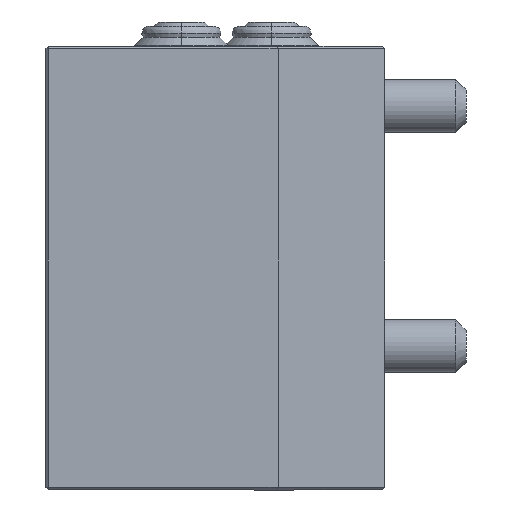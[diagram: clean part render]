
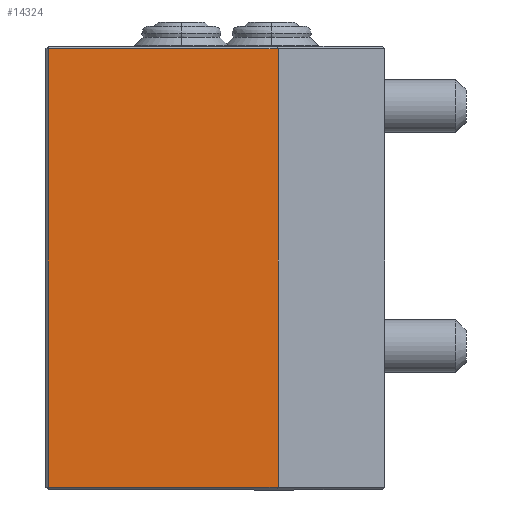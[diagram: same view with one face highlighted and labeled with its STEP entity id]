
A CAD part, left-side view. The second image highlights one B-rep face of the part: STEP entity #14324.
In plain terms, the highlighted planar face has unit normal (-1, 0, 0).
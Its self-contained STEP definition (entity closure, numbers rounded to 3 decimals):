
#331 = AXIS2_PLACEMENT_3D ( 'NONE', #9871, #9806, #9775 ) ;
#340 = DIRECTION ( 'NONE',  ( 0., 0., -1. ) ) ;
#414 = CARTESIAN_POINT ( 'NONE',  ( -51.915, -51.108, 16.635 ) ) ;
#461 = EDGE_CURVE ( 'NONE', #12546, #12591, #9087, .T. ) ;
#1941 = LINE ( 'NONE', #414, #1966 ) ;
#1966 = VECTOR ( 'NONE', #340, 1000. ) ;
#2336 = EDGE_CURVE ( 'NONE', #12412, #12591, #4710, .T. ) ;
#3225 = EDGE_CURVE ( 'NONE', #14670, #12412, #1941, .T. ) ;
#3748 = ORIENTED_EDGE ( 'NONE', *, *, #11827, .F. ) ;
#4710 = LINE ( 'NONE', #6121, #4810 ) ;
#4810 = VECTOR ( 'NONE', #6169, 1000. ) ;
#5515 = CARTESIAN_POINT ( 'NONE',  ( -51.915, -33.908, -16.435 ) ) ;
#5748 = CARTESIAN_POINT ( 'NONE',  ( -51.915, -33.908, 16.435 ) ) ;
#6121 = CARTESIAN_POINT ( 'NONE',  ( -51.915, -59.108, -16.435 ) ) ;
#6169 = DIRECTION ( 'NONE',  ( 0., 1., 0. ) ) ;
#6519 = CARTESIAN_POINT ( 'NONE',  ( -51.915, -51.108, -16.435 ) ) ;
#6562 = FACE_OUTER_BOUND ( 'NONE', #14475, .T. ) ;
#7002 = ORIENTED_EDGE ( 'NONE', *, *, #2336, .F. ) ;
#7340 = ORIENTED_EDGE ( 'NONE', *, *, #461, .T. ) ;
#8630 = CARTESIAN_POINT ( 'NONE',  ( -51.915, -51.108, 16.435 ) ) ;
#9074 = VECTOR ( 'NONE', #10858, 1000. ) ;
#9087 = LINE ( 'NONE', #11272, #9074 ) ;
#9775 = DIRECTION ( 'NONE',  ( 0., 0., -1. ) ) ;
#9806 = DIRECTION ( 'NONE',  ( 1., 0., 0. ) ) ;
#9867 = PLANE ( 'NONE',  #331 ) ;
#9871 = CARTESIAN_POINT ( 'NONE',  ( -51.915, -59.108, 16.635 ) ) ;
#10673 = ORIENTED_EDGE ( 'NONE', *, *, #3225, .F. ) ;
#10858 = DIRECTION ( 'NONE',  ( 0., 0., -1. ) ) ;
#10955 = DIRECTION ( 'NONE',  ( 0., -1., 0. ) ) ;
#11202 = CARTESIAN_POINT ( 'NONE',  ( -51.915, -59.108, 16.435 ) ) ;
#11272 = CARTESIAN_POINT ( 'NONE',  ( -51.915, -33.908, 16.635 ) ) ;
#11827 = EDGE_CURVE ( 'NONE', #12546, #14670, #14070, .T. ) ;
#12412 = VERTEX_POINT ( 'NONE', #6519 ) ;
#12546 = VERTEX_POINT ( 'NONE', #5748 ) ;
#12591 = VERTEX_POINT ( 'NONE', #5515 ) ;
#13892 = VECTOR ( 'NONE', #10955, 1000. ) ;
#14070 = LINE ( 'NONE', #11202, #13892 ) ;
#14324 = ADVANCED_FACE ( 'NONE', ( #6562 ), #9867, .F. ) ;
#14475 = EDGE_LOOP ( 'NONE', ( #7002, #10673, #3748, #7340 ) ) ;
#14670 = VERTEX_POINT ( 'NONE', #8630 ) ;
